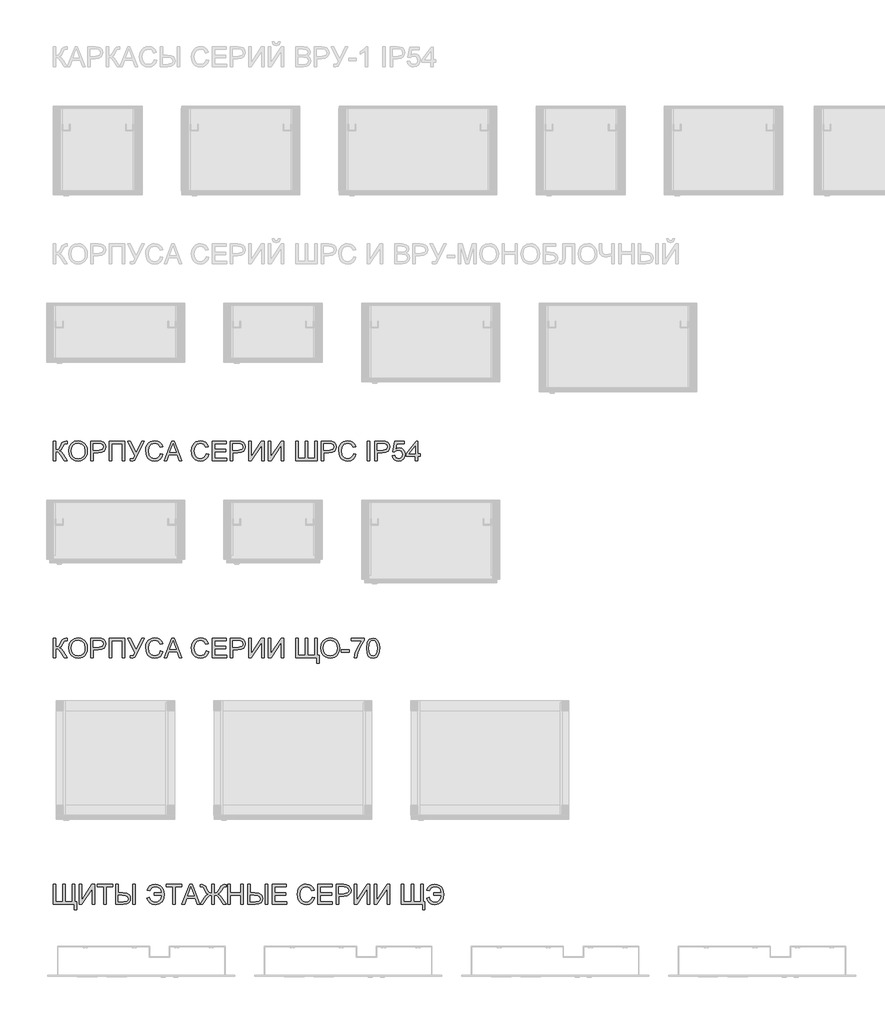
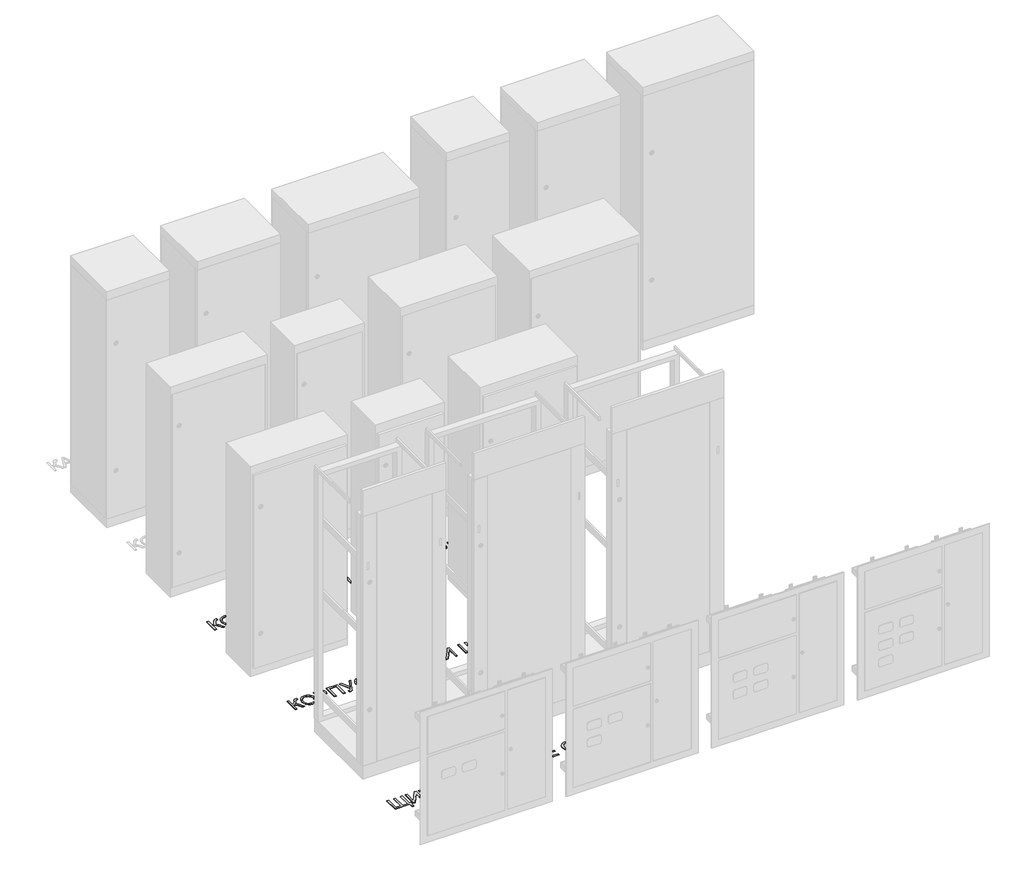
# One storey, part 3 of 25: 3 proxies.
"""IFC4 building model written with IfcOpenShell, lengths in millimetres."""

import ifcopenshell
import ifcopenshell.guid

model = None  # the IFC model being written
_history = None  # IfcOwnerHistory: only IFC2X3 demands one
_inside = {}  # id of a spatial element -> (the spatial element, [elements in it])
_under = {}  # id of a project, library or spatial element -> (it, [spatial elements below it])
_declared = {}  # id of a project -> (the project, [libraries it declares])
_typed = {}  # id of a type object -> (the type object, [elements of that type])
_made_of = {}  # id of a material, layer set ... -> (it, [elements and type objects made of it])


def new_model(schema):
    """Start an empty IFC model of exactly this schema.

    Asked for "IFC4X3", IfcOpenShell would pick the latest addendum, in which some entities
    have other attributes; the version numbers below select the first issue.
    IFC2X3 requires an IfcOwnerHistory on every rooted entity: one is made here for all.
    """
    global model, _history
    if schema == "IFC4X3":
        model = ifcopenshell.file(schema_version=(4, 3, 0, 0))
    else:
        model = ifcopenshell.file(schema=schema)
    _inside.clear()
    _under.clear()
    _declared.clear()
    _typed.clear()
    _made_of.clear()
    _history = None
    if model.schema == "IFC2X3":
        org = make("IfcOrganization", Name="unknown")
        user = make(
            "IfcPersonAndOrganization",
            ThePerson=make("IfcPerson", FamilyName="unknown"),
            TheOrganization=org,
        )
        app = make(
            "IfcApplication",
            ApplicationDeveloper=org,
            Version="unknown",
            ApplicationFullName="unknown",
            ApplicationIdentifier="unknown",
        )
        _history = make(
            "IfcOwnerHistory",
            OwningUser=user,
            OwningApplication=app,
            ChangeAction="ADDED",
            CreationDate=0,
        )
    return model


def make(cls, **values):
    """One entity of the class cls with the attributes given. An attribute that is None is left unset."""
    return model.create_entity(
        cls, **{name: value for name, value in values.items() if value is not None}
    )


def rooted(cls, **values):
    """An entity with a GlobalId (a new one), such as an element, a storey or a relation."""
    return make(cls, GlobalId=ifcopenshell.guid.new(), OwnerHistory=_history, **values)


def si_unit(unit_type, name, prefix=None):
    """IfcSIUnit, for example si_unit("LENGTHUNIT", "METRE", prefix="MILLI")."""
    return make("IfcSIUnit", UnitType=unit_type, Prefix=prefix, Name=name)


def assignment(units):
    """IfcUnitAssignment: the units of a project."""
    return None if units is None else make("IfcUnitAssignment", Units=units)


def point(xyz):
    """IfcCartesianPoint."""
    return None if xyz is None else make("IfcCartesianPoint", Coordinates=xyz)


def direction(xyz):
    """IfcDirection."""
    return None if xyz is None else make("IfcDirection", DirectionRatios=xyz)


def frame(location, z_axis=None, x_axis=None):
    """IfcAxis2Placement3D, a coordinate frame: its origin and axes. An axis left out is left unset."""
    return make(
        "IfcAxis2Placement3D",
        Location=point(location),
        Axis=direction(z_axis),
        RefDirection=direction(x_axis),
    )


def origin():
    """The frame at (0, 0, 0) with its axes left unset."""
    return frame((0.0, 0.0, 0.0))


def place(relative_to, where):
    """IfcLocalPlacement: puts the frame where relative to a parent placement (None: the world)."""
    return make(
        "IfcLocalPlacement", PlacementRelTo=relative_to, RelativePlacement=where
    )


def context(
    kind, dimensions, precision=None, world=None, true_north=None, identifier=None
):
    """IfcGeometricRepresentationContext, for example the 3D "Model" context."""
    return make(
        "IfcGeometricRepresentationContext",
        ContextIdentifier=identifier,
        ContextType=kind,
        CoordinateSpaceDimension=dimensions,
        Precision=precision,
        WorldCoordinateSystem=world,
        TrueNorth=true_north,
    )


def project(units=None, contexts=None):
    """IfcProject with its units and contexts."""
    return rooted(
        "IfcProject",
        Name="project",
        RepresentationContexts=contexts,
        UnitsInContext=assignment(units),
    )


def spatial(cls, under=None, at=None, **own):
    """A site, building, storey or space (cls), placed at a placement, below another one or the project."""
    s = rooted(cls, ObjectPlacement=at, **own)
    if under is not None:
        _under.setdefault(under.id(), (under, []))[1].append(s)
    return s


def polyline(points):
    """IfcPolyline through the points."""
    return make("IfcPolyline", Points=[point(p) for p in points])


def outline(outer, holes=None, kind="AREA"):
    """IfcArbitraryClosedProfileDef: a profile drawn as a closed curve; with holes, ...WithVoids."""
    if holes is None:
        return make("IfcArbitraryClosedProfileDef", ProfileType=kind, OuterCurve=outer)
    return make(
        "IfcArbitraryProfileDefWithVoids",
        ProfileType=kind,
        OuterCurve=outer,
        InnerCurves=holes,
    )


def extrude(swept, where, along, depth):
    """IfcExtrudedAreaSolid: the profile swept, set in the frame where, extruded along a direction by depth."""
    return make(
        "IfcExtrudedAreaSolid",
        SweptArea=swept,
        Position=where,
        ExtrudedDirection=direction(along),
        Depth=depth,
    )


def shape(context_of_items, identifier, shape_type, items):
    """IfcShapeRepresentation: the items that make up one representation, for example the "Body"."""
    return make(
        "IfcShapeRepresentation",
        ContextOfItems=context_of_items,
        RepresentationIdentifier=identifier,
        RepresentationType=shape_type,
        Items=items,
    )


def made_of(thing, what):
    """Note that an element or type object is made of a material, layer set ...; save() writes the relation."""
    if what is not None:
        _made_of.setdefault(what.id(), (what, []))[1].append(thing)
    return thing


def element(
    cls,
    number,
    at=None,
    inside=None,
    cuts=None,
    type_object=None,
    material=None,
    context=None,
    identifier="Body",
    shape_type=None,
    held_by="IfcProductDefinitionShape",
    body=None,
    shapes=None,
    **own,
):
    """One element of the class cls, such as IfcWall. Its Tag is "e" and its number.

    at: its placement. inside: the storey or other place that contains it. cuts: it is an
    opening in that element (IfcRelVoidsElement). A single representation is given by context,
    identifier, shape_type and body (its items); several are given by shapes. held_by: the class
    of the entity that holds the representations. save() writes the other relations.
    """
    e = rooted(cls, Tag="e%d" % number, ObjectPlacement=at, **own)
    if body is not None:
        shapes = [shape(context, identifier, shape_type, body)]
    if shapes is not None:
        e.Representation = make(held_by, Representations=shapes)
    if inside is not None:
        _inside.setdefault(inside.id(), (inside, []))[1].append(e)
    if cuts is not None:
        rooted(
            "IfcRelVoidsElement", RelatingBuildingElement=cuts, RelatedOpeningElement=e
        )
    if type_object is not None:
        _typed.setdefault(type_object.id(), (type_object, []))[1].append(e)
    return made_of(e, material)


def aggregate(whole, parts):
    """IfcRelAggregates: a whole, such as a stair, and the parts it consists of."""
    return rooted("IfcRelAggregates", RelatingObject=whole, RelatedObjects=parts)


def save(model, path):
    """Write the relations noted so far, then the file.

    IfcRelAggregates (storeys below a building ...), IfcRelContainedInSpatialStructure (elements
    in a storey), IfcRelDefinesByType, IfcRelAssociatesMaterial and IfcRelDeclares: one each for
    every whole, place, type object, material and project.
    """
    for whole, parts in _under.values():
        aggregate(whole, parts)
    for where, things in _inside.values():
        rooted(
            "IfcRelContainedInSpatialStructure",
            RelatedElements=things,
            RelatingStructure=where,
        )
    for kind, things in _typed.values():
        rooted("IfcRelDefinesByType", RelatedObjects=things, RelatingType=kind)
    for what, things in _made_of.values():
        rooted("IfcRelAssociatesMaterial", RelatedObjects=things, RelatingMaterial=what)
    for by, libraries in _declared.values():
        rooted("IfcRelDeclares", RelatingContext=by, RelatedDefinitions=libraries)
    model.write(path)


model = new_model("IFC4")

# Units and contexts
model_context = context("Model", 3, world=origin())
ifc_project = project(units=[si_unit("LENGTHUNIT", "METRE", prefix="MILLI")], contexts=[model_context])

# Site, building, storey
site = spatial("IfcSite", under=ifc_project)
building = spatial("IfcBuilding", under=site)
storey = spatial("IfcBuildingStorey", under=building, Name="Этаж 01", Elevation=0.0)

# Proxies
placement = place(None, origin())
element("IfcBuildingElementProxy", 1, Name="Надпись на модели 1", ObjectType="Надпись на модели 1", at=placement, inside=storey, context=model_context, shape_type="SweptSolid", body=[
    extrude(outline(polyline([(-19038.1210387, -3113.3084059), (-19025.564, -3113.3084059), (-19025.564, -3157.2580415), (-19011.5231705, -3153.9348409), (-19001.7252467, -3137.1226337), (-18994.7968024, -3123.0818042), (-18986.9486532, -3116.1288345), (-18975.7282523, -3113.3084059), (-18967.4876957, -3113.4555587), (-18967.4876957, -3126.0125974), (-18970.2590734, -3125.939021), (-18973.030451, -3125.8654446), (-18982.8406376, -3128.882077), (-18990.2963794, -3141.8069978), (-18999.1868609, -3157.5523471), (-19007.8566133, -3162.751746), (-18998.1629227, -3168.4293915), (-18988.6041222, -3180.262929), (-18967.4876957, -3213.764716), (-18982.0558227, -3213.764716), (-18999.9103622, -3185.4623278), (-19012.4796637, -3170.6857344), (-19025.564, -3166.6758206), (-19025.564, -3213.764716), (-19038.1210387, -3213.764716), (-19038.1210387, -3113.3084059)])), frame((0.0, 0.0, 40.0), z_axis=(0.0, 0.0, 1.0), x_axis=(1.0, 0.0, 0.0)), (0.0, 0.0, 1.0), 2.0),
    extrude(outline(polyline([(-18961.2091763, -3164.8609361), (-18957.8614501, -3142.646995), (-18947.8182716, -3125.8409192), (-18932.4837238, -3115.2643118), (-18913.2618896, -3111.738776), (-18900.0855828, -3113.394245), (-18888.2704394, -3118.3606519), (-18878.4602528, -3126.2885089), (-18871.2988166, -3136.8283281), (-18866.9210209, -3149.471206), (-18865.4617557, -3163.7082392), (-18866.997663, -3178.1353448), (-18871.605385, -3190.9560323), (-18879.0304699, -3201.5142456), (-18889.0184661, -3209.1539283), (-18900.7324419, -3213.7892415), (-18913.335466, -3215.3343459), (-18926.7141079, -3213.6267603), (-18938.5966963, -3208.5040035), (-18948.3823574, -3200.4289937), (-18955.4702171, -3189.8646491), (-18961.2091763, -3164.8609361)]), holes=[polyline([(-18948.6521375, -3164.9835634), (-18946.1413429, -3180.698256), (-18938.608959, -3192.672815), (-18927.2873906, -3200.2511841), (-18913.4090424, -3202.7773071), (-18899.328359, -3200.2266586), (-18887.9883965, -3192.5747131), (-18880.5111949, -3180.2322721), (-18878.0187944, -3163.6101373), (-18882.2862256, -3142.8861183), (-18894.7574252, -3129.1641198), (-18913.1883132, -3124.2958148), (-18926.6957138, -3126.6410625), (-18938.1797634, -3133.6768057), (-18946.034044, -3146.1939905), (-18948.6521375, -3164.9835634)])]), frame((0.0, 0.0, 40.0), z_axis=(0.0, 0.0, 1.0), x_axis=(1.0, 0.0, 0.0)), (0.0, 0.0, 1.0), 2.0),
    extrude(outline(polyline([(-18848.1958274, -3213.764716), (-18848.1958274, -3113.3084059), (-18810.9661694, -3113.3084059), (-18795.956584, -3114.264899), (-18783.7551645, -3118.9615258), (-18775.8457016, -3128.6736105), (-18772.8535947, -3142.3710835), (-18774.87388, -3154.2107524), (-18780.9347359, -3164.0761212), (-18792.268567, -3170.7347853), (-18810.1077781, -3172.95434), (-18835.6387886, -3172.95434), (-18835.6387886, -3213.764716), (-18848.1958274, -3213.764716)]), holes=[polyline([(-18835.6387886, -3160.3973012), (-18809.3720141, -3160.3973012), (-18790.8798125, -3155.7865136), (-18786.7779283, -3150.2376268), (-18785.4106335, -3142.8125419), (-18788.6357323, -3132.4137441), (-18797.109281, -3126.7238359), (-18809.6663197, -3125.8654446), (-18835.6387886, -3125.8654446), (-18835.6387886, -3160.3973012)])]), frame((0.0, 0.0, 40.0), z_axis=(0.0, 0.0, 1.0), x_axis=(1.0, 0.0, 0.0)), (0.0, 0.0, 1.0), 2.0),
    extrude(outline(polyline([(-18755.5876664, -3113.3084059), (-18677.1061741, -3113.3084059), (-18677.1061741, -3213.764716), (-18689.6632129, -3213.764716), (-18689.6632129, -3125.8654446), (-18743.0306277, -3125.8654446), (-18743.0306277, -3213.764716), (-18755.5876664, -3213.764716), (-18755.5876664, -3113.3084059)])), frame((0.0, 0.0, 40.0), z_axis=(0.0, 0.0, 1.0), x_axis=(1.0, 0.0, 0.0)), (0.0, 0.0, 1.0), 2.0),
    extrude(outline(polyline([(-18662.1946906, -3113.3084059), (-18648.2887512, -3113.3084059), (-18618.2450549, -3172.8071872), (-18591.217991, -3113.3084059), (-18577.4346789, -3113.3084059), (-18615.5717791, -3191.569169), (-18625.9460513, -3210.7971346), (-18637.5465969, -3215.3343459), (-18648.8528369, -3213.764716), (-18648.8528369, -3202.7773071), (-18638.969074, -3202.7773071), (-18631.6359595, -3199.9814039), (-18624.8424053, -3187.2526869), (-18662.1946906, -3113.3084059)])), frame((0.0, 0.0, 40.0), z_axis=(0.0, 0.0, 1.0), x_axis=(1.0, 0.0, 0.0)), (0.0, 0.0, 1.0), 2.0),
    extrude(outline(polyline([(-18495.029112, -3178.055637), (-18482.4720732, -3181.2929986), (-18488.2662146, -3195.9255049), (-18497.3590313, -3206.6155426), (-18509.3029334, -3213.154645), (-18523.6503312, -3215.3343459), (-18538.2153925, -3213.6850082), (-18549.7822156, -3208.7369954), (-18558.6481717, -3200.6619856), (-18565.1106321, -3189.6316571), (-18570.3713446, -3162.7762715), (-18568.8844882, -3148.1284367), (-18564.423919, -3135.4794274), (-18557.2226289, -3125.2308482), (-18547.51361, -3117.7843035), (-18535.9989035, -3113.2501579), (-18523.3805511, -3111.738776), (-18509.6125674, -3113.694682), (-18498.2296853, -3119.5623998), (-18489.5875241, -3128.9801789), (-18484.0417031, -3141.5862686), (-18496.5987418, -3144.5783754), (-18506.8994377, -3129.1395944), (-18523.8710604, -3124.2958148), (-18543.5159589, -3129.6668919), (-18554.6137325, -3144.0878661), (-18557.8143058, -3162.751746), (-18554.0251213, -3184.3832073), (-18542.228372, -3198.2033076), (-18524.90113, -3202.7773071), (-18514.4195588, -3201.21994), (-18505.6854271, -3196.5478386), (-18499.0911423, -3188.810054), (-18495.029112, -3178.055637)])), frame((0.0, 0.0, 40.0), z_axis=(0.0, 0.0, 1.0), x_axis=(1.0, 0.0, 0.0)), (0.0, 0.0, 1.0), 2.0),
    extrude(outline(polyline([(-18476.9047924, -3213.764716), (-18436.8056549, -3113.3084059), (-18426.1125516, -3113.3084059), (-18386.0134141, -3213.764716), (-18399.2816914, -3213.764716), (-18410.7841351, -3182.3721191), (-18452.1585968, -3182.3721191), (-18463.6365151, -3213.764716), (-18476.9047924, -3213.764716)]), holes=[polyline([(-18447.5478091, -3169.8150803), (-18415.3703973, -3169.8150803), (-18424.4202944, -3145.1179357), (-18431.4591032, -3125.8654446), (-18437.7130971, -3142.9596947), (-18447.5478091, -3169.8150803)])]), frame((0.0, 0.0, 40.0), z_axis=(0.0, 0.0, 1.0), x_axis=(1.0, 0.0, 0.0)), (0.0, 0.0, 1.0), 2.0),
    extrude(outline(polyline([(-18262.7238948, -3178.055637), (-18250.166856, -3181.2929986), (-18255.9609974, -3195.9255049), (-18265.0538141, -3206.6155426), (-18276.9977162, -3213.154645), (-18291.345114, -3215.3343459), (-18305.9101753, -3213.6850082), (-18317.4769984, -3208.7369954), (-18326.3429545, -3200.6619856), (-18332.8054148, -3189.6316571), (-18338.0661274, -3162.7762715), (-18336.579271, -3148.1284367), (-18332.1187018, -3135.4794274), (-18324.9174117, -3125.2308482), (-18315.2083927, -3117.7843035), (-18303.6936863, -3113.2501579), (-18291.0753339, -3111.738776), (-18277.3073502, -3113.694682), (-18265.9244681, -3119.5623998), (-18257.2823069, -3128.9801789), (-18251.7364858, -3141.5862686), (-18264.2935246, -3144.5783754), (-18274.5942205, -3129.1395944), (-18291.5658432, -3124.2958148), (-18311.2107417, -3129.6668919), (-18322.3085152, -3144.0878661), (-18325.5090886, -3162.751746), (-18321.7199041, -3184.3832073), (-18309.9231547, -3198.2033076), (-18292.5959128, -3202.7773071), (-18282.1143416, -3201.21994), (-18273.3802099, -3196.5478386), (-18266.7859251, -3188.810054), (-18262.7238948, -3178.055637)])), frame((0.0, 0.0, 40.0), z_axis=(0.0, 0.0, 1.0), x_axis=(1.0, 0.0, 0.0)), (0.0, 0.0, 1.0), 2.0),
    extrude(outline(polyline([(-18232.9009277, -3213.764716), (-18232.9009277, -3113.3084059), (-18160.6979548, -3113.3084059), (-18160.6979548, -3125.8654446), (-18220.3438889, -3125.8654446), (-18220.3438889, -3155.6884117), (-18163.8372145, -3155.6884117), (-18163.8372145, -3168.2454505), (-18220.3438889, -3168.2454505), (-18220.3438889, -3201.2076772), (-18159.1283249, -3201.2076772), (-18159.1283249, -3213.764716), (-18232.9009277, -3213.764716)])), frame((0.0, 0.0, 40.0), z_axis=(0.0, 0.0, 1.0), x_axis=(1.0, 0.0, 0.0)), (0.0, 0.0, 1.0), 2.0),
    extrude(outline(polyline([(-18140.2927668, -3213.764716), (-18140.2927668, -3113.3084059), (-18103.0631089, -3113.3084059), (-18088.0535235, -3114.264899), (-18075.8521039, -3118.9615258), (-18067.942641, -3128.6736105), (-18064.9505342, -3142.3710835), (-18066.9708194, -3154.2107524), (-18073.0316753, -3164.0761212), (-18084.3655064, -3170.7347853), (-18102.2047175, -3172.95434), (-18127.735728, -3172.95434), (-18127.735728, -3213.764716), (-18140.2927668, -3213.764716)]), holes=[polyline([(-18127.735728, -3160.3973012), (-18101.4689535, -3160.3973012), (-18082.9767519, -3155.7865136), (-18078.8748677, -3150.2376268), (-18077.5075729, -3142.8125419), (-18080.7326717, -3132.4137441), (-18089.2062204, -3126.7238359), (-18101.7632591, -3125.8654446), (-18127.735728, -3125.8654446), (-18127.735728, -3160.3973012)])]), frame((0.0, 0.0, 40.0), z_axis=(0.0, 0.0, 1.0), x_axis=(1.0, 0.0, 0.0)), (0.0, 0.0, 1.0), 2.0),
    extrude(outline(polyline([(-18047.6846058, -3113.3084059), (-18035.1275671, -3113.3084059), (-18035.1275671, -3192.8690187), (-17982.5449672, -3113.3084059), (-17969.2031135, -3113.3084059), (-17969.2031135, -3213.764716), (-17981.7601523, -3213.764716), (-17981.7601523, -3134.4248324), (-18034.2201248, -3213.764716), (-18047.6846058, -3213.764716), (-18047.6846058, -3113.3084059)])), frame((0.0, 0.0, 40.0), z_axis=(0.0, 0.0, 1.0), x_axis=(1.0, 0.0, 0.0)), (0.0, 0.0, 1.0), 2.0),
    extrude(outline(polyline([(-17947.2282957, -3113.3084059), (-17934.6712569, -3113.3084059), (-17934.6712569, -3192.8690187), (-17882.0886571, -3113.3084059), (-17868.7468034, -3113.3084059), (-17868.7468034, -3213.764716), (-17881.3038422, -3213.764716), (-17881.3038422, -3134.4248324), (-17933.7638147, -3213.764716), (-17947.2282957, -3213.764716), (-17947.2282957, -3113.3084059)])), frame((0.0, 0.0, 40.0), z_axis=(0.0, 0.0, 1.0), x_axis=(1.0, 0.0, 0.0)), (0.0, 0.0, 1.0), 2.0),
    extrude(outline(polyline([(-17809.1008692, -3113.3084059), (-17796.5438305, -3113.3084059), (-17796.5438305, -3201.2076772), (-17760.442344, -3201.2076772), (-17760.442344, -3113.3084059), (-17747.8853052, -3113.3084059), (-17747.8853052, -3201.2076772), (-17711.7838188, -3201.2076772), (-17711.7838188, -3113.3084059), (-17699.22678, -3113.3084059), (-17699.22678, -3213.764716), (-17809.1008692, -3213.764716), (-17809.1008692, -3113.3084059)])), frame((0.0, 0.0, 40.0), z_axis=(0.0, 0.0, 1.0), x_axis=(1.0, 0.0, 0.0)), (0.0, 0.0, 1.0), 2.0),
    extrude(outline(polyline([(-17678.821592, -3213.764716), (-17678.821592, -3113.3084059), (-17641.5919341, -3113.3084059), (-17626.5823487, -3114.264899), (-17614.3809292, -3118.9615258), (-17606.4714663, -3128.6736105), (-17603.4793594, -3142.3710835), (-17605.4996447, -3154.2107524), (-17611.5605006, -3164.0761212), (-17622.8943317, -3170.7347853), (-17640.7335428, -3172.95434), (-17666.2645532, -3172.95434), (-17666.2645532, -3213.764716), (-17678.821592, -3213.764716)]), holes=[polyline([(-17666.2645532, -3160.3973012), (-17639.9977788, -3160.3973012), (-17621.5055772, -3155.7865136), (-17617.4036929, -3150.2376268), (-17616.0363982, -3142.8125419), (-17619.261497, -3132.4137441), (-17627.7350456, -3126.7238359), (-17640.2920844, -3125.8654446), (-17666.2645532, -3125.8654446), (-17666.2645532, -3160.3973012)])]), frame((0.0, 0.0, 40.0), z_axis=(0.0, 0.0, 1.0), x_axis=(1.0, 0.0, 0.0)), (0.0, 0.0, 1.0), 2.0),
    extrude(outline(polyline([(-17515.580088, -3178.055637), (-17503.0230493, -3181.2929986), (-17508.8171907, -3195.9255049), (-17517.9100073, -3206.6155426), (-17529.8539094, -3213.154645), (-17544.2013072, -3215.3343459), (-17558.7663686, -3213.6850082), (-17570.3331916, -3208.7369954), (-17579.1991477, -3200.6619856), (-17585.6616081, -3189.6316571), (-17590.9223206, -3162.7762715), (-17589.4354642, -3148.1284367), (-17584.974895, -3135.4794274), (-17577.773605, -3125.2308482), (-17568.064586, -3117.7843035), (-17556.5498796, -3113.2501579), (-17543.9315271, -3111.738776), (-17530.1635434, -3113.694682), (-17518.7806614, -3119.5623998), (-17510.1385002, -3128.9801789), (-17504.5926791, -3141.5862686), (-17517.1497179, -3144.5783754), (-17527.4504137, -3129.1395944), (-17544.4220364, -3124.2958148), (-17564.066935, -3129.6668919), (-17575.1647085, -3144.0878661), (-17578.3652819, -3162.751746), (-17574.5760973, -3184.3832073), (-17562.779348, -3198.2033076), (-17545.452106, -3202.7773071), (-17534.9705349, -3201.21994), (-17526.2364031, -3196.5478386), (-17519.6421184, -3188.810054), (-17515.580088, -3178.055637)])), frame((0.0, 0.0, 40.0), z_axis=(0.0, 0.0, 1.0), x_axis=(1.0, 0.0, 0.0)), (0.0, 0.0, 1.0), 2.0),
    extrude(outline(polyline([(-17444.9467449, -3213.764716), (-17444.9467449, -3113.3084059), (-17432.3897062, -3113.3084059), (-17432.3897062, -3213.764716), (-17444.9467449, -3213.764716)])), frame((0.0, 0.0, 40.0), z_axis=(0.0, 0.0, 1.0), x_axis=(1.0, 0.0, 0.0)), (0.0, 0.0, 1.0), 2.0),
    extrude(outline(polyline([(-17407.2756286, -3213.764716), (-17407.2756286, -3113.3084059), (-17370.0459707, -3113.3084059), (-17355.0363853, -3114.264899), (-17342.8349658, -3118.9615258), (-17334.9255029, -3128.6736105), (-17331.933396, -3142.3710835), (-17333.9536813, -3154.2107524), (-17340.0145372, -3164.0761212), (-17351.3483683, -3170.7347853), (-17369.1875794, -3172.95434), (-17394.7185899, -3172.95434), (-17394.7185899, -3213.764716), (-17407.2756286, -3213.764716)]), holes=[polyline([(-17394.7185899, -3160.3973012), (-17368.4518154, -3160.3973012), (-17349.9596138, -3155.7865136), (-17345.8577295, -3150.2376268), (-17344.4904348, -3142.8125419), (-17347.7155336, -3132.4137441), (-17356.1890822, -3126.7238359), (-17368.746121, -3125.8654446), (-17394.7185899, -3125.8654446), (-17394.7185899, -3160.3973012)])]), frame((0.0, 0.0, 40.0), z_axis=(0.0, 0.0, 1.0), x_axis=(1.0, 0.0, 0.0)), (0.0, 0.0, 1.0), 2.0),
    extrude(outline(polyline([(-17319.3763573, -3187.0810086), (-17306.8193185, -3185.5113788), (-17300.4917482, -3198.4485623), (-17287.3706237, -3202.7773071), (-17278.3697775, -3201.2720566), (-17271.6252743, -3196.7563051), (-17267.4130254, -3189.7512188), (-17266.0089425, -3180.7779638), (-17271.269655, -3165.8664802), (-17277.8762025, -3161.764596), (-17287.17442, -3160.3973012), (-17298.1986171, -3162.5800677), (-17305.2496886, -3168.2454505), (-17317.8067274, -3166.6758206), (-17306.8193185, -3114.8780357), (-17258.1607933, -3114.8780357), (-17258.1607933, -3127.4350745), (-17296.6657754, -3127.4350745), (-17302.0368526, -3155.0998005), (-17293.0666632, -3149.655147), (-17283.6672783, -3147.8402625), (-17271.9349083, -3150.090474), (-17262.1952325, -3156.8411086), (-17255.6377359, -3167.1295418), (-17253.4519037, -3179.9931488), (-17255.4200724, -3192.5501876), (-17261.3245784, -3203.2923419), (-17272.6308184, -3212.3238449), (-17287.4196746, -3215.3343459), (-17299.7529185, -3213.3998997), (-17309.5784335, -3207.5965612), (-17316.3137397, -3198.5987808), (-17319.3763573, -3187.0810086)])), frame((0.0, 0.0, 40.0), z_axis=(0.0, 0.0, 1.0), x_axis=(1.0, 0.0, 0.0)), (0.0, 0.0, 1.0), 2.0),
    extrude(outline(polyline([(-17201.6541188, -3213.764716), (-17201.6541188, -3190.2202683), (-17247.1733843, -3190.2202683), (-17247.1733843, -3177.6632295), (-17198.5148591, -3114.8780357), (-17189.09708, -3114.8780357), (-17189.09708, -3177.6632295), (-17176.5400413, -3177.6632295), (-17176.5400413, -3190.2202683), (-17189.09708, -3190.2202683), (-17189.09708, -3213.764716), (-17201.6541188, -3213.764716)]), holes=[polyline([(-17201.6541188, -3177.6632295), (-17201.6541188, -3138.8639418), (-17231.7223405, -3177.6632295), (-17201.6541188, -3177.6632295)])]), frame((0.0, 0.0, 40.0), z_axis=(0.0, 0.0, 1.0), x_axis=(1.0, 0.0, 0.0)), (0.0, 0.0, 1.0), 2.0),
])
element("IfcBuildingElementProxy", 2, Name="Надпись на модели 1", ObjectType="Надпись на модели 1", at=placement, inside=storey, context=model_context, shape_type="SweptSolid", body=[
    extrude(outline(polyline([(-19038.1210387, -4113.3084059), (-19025.564, -4113.3084059), (-19025.564, -4157.2580415), (-19011.5231705, -4153.9348409), (-19001.7252467, -4137.1226337), (-18994.7968024, -4123.0818042), (-18986.9486532, -4116.1288345), (-18975.7282523, -4113.3084059), (-18967.4876957, -4113.4555587), (-18967.4876957, -4126.0125974), (-18970.2590734, -4125.939021), (-18973.030451, -4125.8654446), (-18982.8406376, -4128.882077), (-18990.2963794, -4141.8069978), (-18999.1868609, -4157.5523471), (-19007.8566133, -4162.751746), (-18998.1629227, -4168.4293915), (-18988.6041222, -4180.262929), (-18967.4876957, -4213.764716), (-18982.0558227, -4213.764716), (-18999.9103622, -4185.4623278), (-19012.4796637, -4170.6857344), (-19025.564, -4166.6758206), (-19025.564, -4213.764716), (-19038.1210387, -4213.764716), (-19038.1210387, -4113.3084059)])), frame((0.0, 0.0, 40.0), z_axis=(0.0, 0.0, 1.0), x_axis=(1.0, 0.0, 0.0)), (0.0, 0.0, 1.0), 2.0),
    extrude(outline(polyline([(-18961.2091763, -4164.8609361), (-18957.8614501, -4142.646995), (-18947.8182716, -4125.8409192), (-18932.4837238, -4115.2643118), (-18913.2618896, -4111.738776), (-18900.0855828, -4113.394245), (-18888.2704394, -4118.3606519), (-18878.4602528, -4126.2885089), (-18871.2988166, -4136.8283281), (-18866.9210209, -4149.471206), (-18865.4617557, -4163.7082392), (-18866.997663, -4178.1353448), (-18871.605385, -4190.9560323), (-18879.0304699, -4201.5142456), (-18889.0184661, -4209.1539283), (-18900.7324419, -4213.7892415), (-18913.335466, -4215.3343459), (-18926.7141079, -4213.6267603), (-18938.5966963, -4208.5040035), (-18948.3823574, -4200.4289937), (-18955.4702171, -4189.8646491), (-18961.2091763, -4164.8609361)]), holes=[polyline([(-18948.6521375, -4164.9835634), (-18946.1413429, -4180.698256), (-18938.608959, -4192.672815), (-18927.2873906, -4200.2511841), (-18913.4090424, -4202.7773071), (-18899.328359, -4200.2266586), (-18887.9883965, -4192.5747131), (-18880.5111949, -4180.2322721), (-18878.0187944, -4163.6101373), (-18882.2862256, -4142.8861183), (-18894.7574252, -4129.1641198), (-18913.1883132, -4124.2958148), (-18926.6957138, -4126.6410625), (-18938.1797634, -4133.6768057), (-18946.034044, -4146.1939905), (-18948.6521375, -4164.9835634)])]), frame((0.0, 0.0, 40.0), z_axis=(0.0, 0.0, 1.0), x_axis=(1.0, 0.0, 0.0)), (0.0, 0.0, 1.0), 2.0),
    extrude(outline(polyline([(-18848.1958274, -4213.764716), (-18848.1958274, -4113.3084059), (-18810.9661694, -4113.3084059), (-18795.956584, -4114.264899), (-18783.7551645, -4118.9615258), (-18775.8457016, -4128.6736105), (-18772.8535947, -4142.3710835), (-18774.87388, -4154.2107524), (-18780.9347359, -4164.0761212), (-18792.268567, -4170.7347853), (-18810.1077781, -4172.95434), (-18835.6387886, -4172.95434), (-18835.6387886, -4213.764716), (-18848.1958274, -4213.764716)]), holes=[polyline([(-18835.6387886, -4160.3973012), (-18809.3720141, -4160.3973012), (-18790.8798125, -4155.7865136), (-18786.7779283, -4150.2376268), (-18785.4106335, -4142.8125419), (-18788.6357323, -4132.4137441), (-18797.109281, -4126.7238359), (-18809.6663197, -4125.8654446), (-18835.6387886, -4125.8654446), (-18835.6387886, -4160.3973012)])]), frame((0.0, 0.0, 40.0), z_axis=(0.0, 0.0, 1.0), x_axis=(1.0, 0.0, 0.0)), (0.0, 0.0, 1.0), 2.0),
    extrude(outline(polyline([(-18755.5876664, -4113.3084059), (-18677.1061741, -4113.3084059), (-18677.1061741, -4213.764716), (-18689.6632129, -4213.764716), (-18689.6632129, -4125.8654446), (-18743.0306277, -4125.8654446), (-18743.0306277, -4213.764716), (-18755.5876664, -4213.764716), (-18755.5876664, -4113.3084059)])), frame((0.0, 0.0, 40.0), z_axis=(0.0, 0.0, 1.0), x_axis=(1.0, 0.0, 0.0)), (0.0, 0.0, 1.0), 2.0),
    extrude(outline(polyline([(-18662.1946906, -4113.3084059), (-18648.2887512, -4113.3084059), (-18618.2450549, -4172.8071872), (-18591.217991, -4113.3084059), (-18577.4346789, -4113.3084059), (-18615.5717791, -4191.569169), (-18625.9460513, -4210.7971346), (-18637.5465969, -4215.3343459), (-18648.8528369, -4213.764716), (-18648.8528369, -4202.7773071), (-18638.969074, -4202.7773071), (-18631.6359595, -4199.9814039), (-18624.8424053, -4187.2526869), (-18662.1946906, -4113.3084059)])), frame((0.0, 0.0, 40.0), z_axis=(0.0, 0.0, 1.0), x_axis=(1.0, 0.0, 0.0)), (0.0, 0.0, 1.0), 2.0),
    extrude(outline(polyline([(-18495.029112, -4178.055637), (-18482.4720732, -4181.2929986), (-18488.2662146, -4195.9255049), (-18497.3590313, -4206.6155426), (-18509.3029334, -4213.154645), (-18523.6503312, -4215.3343459), (-18538.2153925, -4213.6850082), (-18549.7822156, -4208.7369954), (-18558.6481717, -4200.6619856), (-18565.1106321, -4189.6316571), (-18570.3713446, -4162.7762715), (-18568.8844882, -4148.1284367), (-18564.423919, -4135.4794274), (-18557.2226289, -4125.2308482), (-18547.51361, -4117.7843035), (-18535.9989035, -4113.2501579), (-18523.3805511, -4111.738776), (-18509.6125674, -4113.694682), (-18498.2296853, -4119.5623998), (-18489.5875241, -4128.9801789), (-18484.0417031, -4141.5862686), (-18496.5987418, -4144.5783754), (-18506.8994377, -4129.1395944), (-18523.8710604, -4124.2958148), (-18543.5159589, -4129.6668919), (-18554.6137325, -4144.0878661), (-18557.8143058, -4162.751746), (-18554.0251213, -4184.3832073), (-18542.228372, -4198.2033076), (-18524.90113, -4202.7773071), (-18514.4195588, -4201.21994), (-18505.6854271, -4196.5478386), (-18499.0911423, -4188.810054), (-18495.029112, -4178.055637)])), frame((0.0, 0.0, 40.0), z_axis=(0.0, 0.0, 1.0), x_axis=(1.0, 0.0, 0.0)), (0.0, 0.0, 1.0), 2.0),
    extrude(outline(polyline([(-18476.9047924, -4213.764716), (-18436.8056549, -4113.3084059), (-18426.1125516, -4113.3084059), (-18386.0134141, -4213.764716), (-18399.2816914, -4213.764716), (-18410.7841351, -4182.3721191), (-18452.1585968, -4182.3721191), (-18463.6365151, -4213.764716), (-18476.9047924, -4213.764716)]), holes=[polyline([(-18447.5478091, -4169.8150803), (-18415.3703973, -4169.8150803), (-18424.4202944, -4145.1179357), (-18431.4591032, -4125.8654446), (-18437.7130971, -4142.9596947), (-18447.5478091, -4169.8150803)])]), frame((0.0, 0.0, 40.0), z_axis=(0.0, 0.0, 1.0), x_axis=(1.0, 0.0, 0.0)), (0.0, 0.0, 1.0), 2.0),
    extrude(outline(polyline([(-18262.7238948, -4178.055637), (-18250.166856, -4181.2929986), (-18255.9609974, -4195.9255049), (-18265.0538141, -4206.6155426), (-18276.9977162, -4213.154645), (-18291.345114, -4215.3343459), (-18305.9101753, -4213.6850082), (-18317.4769984, -4208.7369954), (-18326.3429545, -4200.6619856), (-18332.8054148, -4189.6316571), (-18338.0661274, -4162.7762715), (-18336.579271, -4148.1284367), (-18332.1187018, -4135.4794274), (-18324.9174117, -4125.2308482), (-18315.2083927, -4117.7843035), (-18303.6936863, -4113.2501579), (-18291.0753339, -4111.738776), (-18277.3073502, -4113.694682), (-18265.9244681, -4119.5623998), (-18257.2823069, -4128.9801789), (-18251.7364858, -4141.5862686), (-18264.2935246, -4144.5783754), (-18274.5942205, -4129.1395944), (-18291.5658432, -4124.2958148), (-18311.2107417, -4129.6668919), (-18322.3085152, -4144.0878661), (-18325.5090886, -4162.751746), (-18321.7199041, -4184.3832073), (-18309.9231547, -4198.2033076), (-18292.5959128, -4202.7773071), (-18282.1143416, -4201.21994), (-18273.3802099, -4196.5478386), (-18266.7859251, -4188.810054), (-18262.7238948, -4178.055637)])), frame((0.0, 0.0, 40.0), z_axis=(0.0, 0.0, 1.0), x_axis=(1.0, 0.0, 0.0)), (0.0, 0.0, 1.0), 2.0),
    extrude(outline(polyline([(-18232.9009277, -4213.764716), (-18232.9009277, -4113.3084059), (-18160.6979548, -4113.3084059), (-18160.6979548, -4125.8654446), (-18220.3438889, -4125.8654446), (-18220.3438889, -4155.6884117), (-18163.8372145, -4155.6884117), (-18163.8372145, -4168.2454505), (-18220.3438889, -4168.2454505), (-18220.3438889, -4201.2076772), (-18159.1283249, -4201.2076772), (-18159.1283249, -4213.764716), (-18232.9009277, -4213.764716)])), frame((0.0, 0.0, 40.0), z_axis=(0.0, 0.0, 1.0), x_axis=(1.0, 0.0, 0.0)), (0.0, 0.0, 1.0), 2.0),
    extrude(outline(polyline([(-18140.2927668, -4213.764716), (-18140.2927668, -4113.3084059), (-18103.0631089, -4113.3084059), (-18088.0535235, -4114.264899), (-18075.8521039, -4118.9615258), (-18067.942641, -4128.6736105), (-18064.9505342, -4142.3710835), (-18066.9708194, -4154.2107524), (-18073.0316753, -4164.0761212), (-18084.3655064, -4170.7347853), (-18102.2047175, -4172.95434), (-18127.735728, -4172.95434), (-18127.735728, -4213.764716), (-18140.2927668, -4213.764716)]), holes=[polyline([(-18127.735728, -4160.3973012), (-18101.4689535, -4160.3973012), (-18082.9767519, -4155.7865136), (-18078.8748677, -4150.2376268), (-18077.5075729, -4142.8125419), (-18080.7326717, -4132.4137441), (-18089.2062204, -4126.7238359), (-18101.7632591, -4125.8654446), (-18127.735728, -4125.8654446), (-18127.735728, -4160.3973012)])]), frame((0.0, 0.0, 40.0), z_axis=(0.0, 0.0, 1.0), x_axis=(1.0, 0.0, 0.0)), (0.0, 0.0, 1.0), 2.0),
    extrude(outline(polyline([(-18047.6846058, -4113.3084059), (-18035.1275671, -4113.3084059), (-18035.1275671, -4192.8690187), (-17982.5449672, -4113.3084059), (-17969.2031135, -4113.3084059), (-17969.2031135, -4213.764716), (-17981.7601523, -4213.764716), (-17981.7601523, -4134.4248324), (-18034.2201248, -4213.764716), (-18047.6846058, -4213.764716), (-18047.6846058, -4113.3084059)])), frame((0.0, 0.0, 40.0), z_axis=(0.0, 0.0, 1.0), x_axis=(1.0, 0.0, 0.0)), (0.0, 0.0, 1.0), 2.0),
    extrude(outline(polyline([(-17947.2282957, -4113.3084059), (-17934.6712569, -4113.3084059), (-17934.6712569, -4192.8690187), (-17882.0886571, -4113.3084059), (-17868.7468034, -4113.3084059), (-17868.7468034, -4213.764716), (-17881.3038422, -4213.764716), (-17881.3038422, -4134.4248324), (-17933.7638147, -4213.764716), (-17947.2282957, -4213.764716), (-17947.2282957, -4113.3084059)])), frame((0.0, 0.0, 40.0), z_axis=(0.0, 0.0, 1.0), x_axis=(1.0, 0.0, 0.0)), (0.0, 0.0, 1.0), 2.0),
    extrude(outline(polyline([(-17809.1008692, -4113.3084059), (-17796.5438305, -4113.3084059), (-17796.5438305, -4201.2076772), (-17760.442344, -4201.2076772), (-17760.442344, -4113.3084059), (-17747.8853052, -4113.3084059), (-17747.8853052, -4201.2076772), (-17711.7838188, -4201.2076772), (-17711.7838188, -4113.3084059), (-17699.22678, -4113.3084059), (-17699.22678, -4201.2076772), (-17689.8090009, -4201.2076772), (-17689.8090009, -4242.0180532), (-17702.3660397, -4242.0180532), (-17702.3660397, -4213.764716), (-17809.1008692, -4213.764716), (-17809.1008692, -4113.3084059)])), frame((0.0, 0.0, 40.0), z_axis=(0.0, 0.0, 1.0), x_axis=(1.0, 0.0, 0.0)), (0.0, 0.0, 1.0), 2.0),
    extrude(outline(polyline([(-17681.9608517, -4164.8609361), (-17678.6131256, -4142.646995), (-17668.5699471, -4125.8409192), (-17653.2353993, -4115.2643118), (-17634.013565, -4111.738776), (-17620.8372582, -4113.394245), (-17609.0221148, -4118.3606519), (-17599.2119283, -4126.2885089), (-17592.0504921, -4136.8283281), (-17587.6726963, -4149.471206), (-17586.2134311, -4163.7082392), (-17587.7493384, -4178.1353448), (-17592.3570604, -4190.9560323), (-17599.7821454, -4201.5142456), (-17609.7701415, -4209.1539283), (-17621.4841174, -4213.7892415), (-17634.0871414, -4215.3343459), (-17647.4657833, -4213.6267603), (-17659.3483717, -4208.5040035), (-17669.1340328, -4200.4289937), (-17676.2218926, -4189.8646491), (-17681.9608517, -4164.8609361)]), holes=[polyline([(-17669.4038129, -4164.9835634), (-17666.8930183, -4180.698256), (-17659.3606345, -4192.672815), (-17648.0390661, -4200.2511841), (-17634.1607178, -4202.7773071), (-17620.0800344, -4200.2266586), (-17608.7400719, -4192.5747131), (-17601.2628704, -4180.2322721), (-17598.7704699, -4163.6101373), (-17603.037901, -4142.8861183), (-17615.5091006, -4129.1641198), (-17633.9399886, -4124.2958148), (-17647.4473892, -4126.6410625), (-17658.9314388, -4133.6768057), (-17666.7857194, -4146.1939905), (-17669.4038129, -4164.9835634)])]), frame((0.0, 0.0, 40.0), z_axis=(0.0, 0.0, 1.0), x_axis=(1.0, 0.0, 0.0)), (0.0, 0.0, 1.0), 2.0),
    extrude(outline(polyline([(-17576.795652, -4183.9417489), (-17576.795652, -4171.3847102), (-17537.5549059, -4171.3847102), (-17537.5549059, -4183.9417489), (-17576.795652, -4183.9417489)])), frame((0.0, 0.0, 40.0), z_axis=(0.0, 0.0, 1.0), x_axis=(1.0, 0.0, 0.0)), (0.0, 0.0, 1.0), 2.0),
    extrude(outline(polyline([(-17526.5674969, -4127.4350745), (-17526.5674969, -4114.8780357), (-17460.6430434, -4114.8780357), (-17460.6430434, -4125.0315788), (-17479.3437115, -4152.0463799), (-17493.6543211, -4186.467872), (-17498.3141597, -4213.764716), (-17510.8711985, -4213.764716), (-17505.8802661, -4185.4378024), (-17492.1827931, -4153.4198061), (-17473.2000822, -4127.4350745), (-17526.5674969, -4127.4350745)])), frame((0.0, 0.0, 40.0), z_axis=(0.0, 0.0, 1.0), x_axis=(1.0, 0.0, 0.0)), (0.0, 0.0, 1.0), 2.0),
    extrude(outline(polyline([(-17449.6556345, -4164.3459013), (-17445.9645518, -4135.4426392), (-17435.0016683, -4118.7775849), (-17416.6934077, -4113.3084059), (-17402.0271788, -4116.5457674), (-17391.8981612, -4125.8777074), (-17386.0120493, -4140.74014), (-17383.731181, -4164.3459013), (-17387.3854754, -4193.1265361), (-17398.3115707, -4209.8283787), (-17406.5429303, -4213.9578541), (-17416.6934077, -4215.3343459), (-17429.7409558, -4212.9431129), (-17439.6492442, -4205.769414), (-17447.1540369, -4188.7793972), (-17449.6556345, -4164.3459013)]), holes=[polyline([(-17437.0985957, -4164.3213759), (-17435.6270677, -4184.0735733), (-17431.2124838, -4195.5055063), (-17424.6396588, -4200.9593569), (-17416.6934077, -4202.7773071), (-17408.7471566, -4200.9532255), (-17402.1743316, -4195.4809808), (-17397.7597477, -4184.0429165), (-17396.2882197, -4164.3213759), (-17397.7106968, -4145.0137025), (-17401.9781279, -4133.4928647), (-17408.5386902, -4127.7722996), (-17416.8405605, -4125.8654446), (-17424.7009725, -4127.5454391), (-17431.0162801, -4132.5854224), (-17435.5780168, -4144.8236301), (-17437.0985957, -4164.3213759)])]), frame((0.0, 0.0, 40.0), z_axis=(0.0, 0.0, 1.0), x_axis=(1.0, 0.0, 0.0)), (0.0, 0.0, 1.0), 2.0),
])
element("IfcBuildingElementProxy", 3, Name="Надпись на модели 1", ObjectType="Надпись на модели 1", at=placement, inside=storey, context=model_context, shape_type="SweptSolid", body=[
    extrude(outline(polyline([(-19039.6906686, -5363.3084059), (-19027.1336298, -5363.3084059), (-19027.1336298, -5451.2076772), (-18991.0321433, -5451.2076772), (-18991.0321433, -5363.3084059), (-18978.4751046, -5363.3084059), (-18978.4751046, -5451.2076772), (-18942.3736181, -5451.2076772), (-18942.3736181, -5363.3084059), (-18929.8165793, -5363.3084059), (-18929.8165793, -5451.2076772), (-18920.3988003, -5451.2076772), (-18920.3988003, -5492.0180532), (-18932.955839, -5492.0180532), (-18932.955839, -5463.764716), (-19039.6906686, -5463.764716), (-19039.6906686, -5363.3084059)])), frame((0.0, 0.0, 40.0), z_axis=(0.0, 0.0, 1.0), x_axis=(1.0, 0.0, 0.0)), (0.0, 0.0, 1.0), 2.0),
    extrude(outline(polyline([(-18907.8417615, -5363.3084059), (-18895.2847227, -5363.3084059), (-18895.2847227, -5442.8690187), (-18842.7021229, -5363.3084059), (-18829.3602692, -5363.3084059), (-18829.3602692, -5463.764716), (-18841.917308, -5463.764716), (-18841.917308, -5384.4248324), (-18894.3772805, -5463.764716), (-18907.8417615, -5463.764716), (-18907.8417615, -5363.3084059)])), frame((0.0, 0.0, 40.0), z_axis=(0.0, 0.0, 1.0), x_axis=(1.0, 0.0, 0.0)), (0.0, 0.0, 1.0), 2.0),
    extrude(outline(polyline([(-18782.2713738, -5463.764716), (-18782.2713738, -5375.8654446), (-18815.2336006, -5375.8654446), (-18815.2336006, -5363.3084059), (-18736.7521083, -5363.3084059), (-18736.7521083, -5375.8654446), (-18769.714335, -5375.8654446), (-18769.714335, -5463.764716), (-18782.2713738, -5463.764716)])), frame((0.0, 0.0, 40.0), z_axis=(0.0, 0.0, 1.0), x_axis=(1.0, 0.0, 0.0)), (0.0, 0.0, 1.0), 2.0),
    extrude(outline(polyline([(-18722.6254397, -5363.3084059), (-18710.0684009, -5363.3084059), (-18710.0684009, -5405.6884117), (-18685.935342, -5405.6884117), (-18666.2965748, -5407.8834409), (-18654.7634743, -5414.4685287), (-18649.1532739, -5423.8372568), (-18647.2832071, -5434.3832073), (-18649.2605728, -5445.3982074), (-18655.1926699, -5454.9478109), (-18666.4958443, -5461.5604897), (-18684.5864414, -5463.764716), (-18722.6254397, -5463.764716), (-18722.6254397, -5363.3084059)]), holes=[polyline([(-18710.0684009, -5451.2076772), (-18684.7090687, -5451.2076772), (-18665.7386205, -5447.222289), (-18661.3148395, -5442.0382185), (-18659.8402458, -5434.4567837), (-18663.4087012, -5424.4749189), (-18672.6302765, -5419.3490965), (-18691.5026229, -5418.2454505), (-18710.0684009, -5418.2454505), (-18710.0684009, -5451.2076772)])]), frame((0.0, 0.0, 40.0), z_axis=(0.0, 0.0, 1.0), x_axis=(1.0, 0.0, 0.0)), (0.0, 0.0, 1.0), 2.0),
    extrude(outline(polyline([(-18634.7261683, -5363.3084059), (-18622.1691295, -5363.3084059), (-18622.1691295, -5463.764716), (-18634.7261683, -5463.764716), (-18634.7261683, -5363.3084059)])), frame((0.0, 0.0, 40.0), z_axis=(0.0, 0.0, 1.0), x_axis=(1.0, 0.0, 0.0)), (0.0, 0.0, 1.0), 2.0),
    extrude(outline(polyline([(-18526.4217089, -5405.6884117), (-18488.7505926, -5405.6884117), (-18491.5158389, -5392.7358998), (-18498.1438462, -5382.7693634), (-18508.3341775, -5376.4142019), (-18521.7863958, -5374.2958148), (-18540.0026859, -5379.3971118), (-18549.9661566, -5394.7010028), (-18562.5231954, -5391.5617431), (-18557.1521182, -5379.066018), (-18548.3965267, -5369.6359762), (-18536.6794852, -5363.7130761), (-18522.4240579, -5361.738776), (-18508.7327163, -5363.5505948), (-18497.0892512, -5368.9860513), (-18487.8400847, -5377.2388707), (-18481.331639, -5387.5027784), (-18476.1935538, -5412.4329149), (-18478.5173418, -5433.0251096), (-18487.0092845, -5450.0672431), (-18501.6203311, -5461.5175702), (-18522.3014306, -5465.3343459), (-18537.3294101, -5463.2742067), (-18549.303969, -5457.0937892), (-18558.2251074, -5446.7930933), (-18564.0928252, -5432.3721191), (-18551.5357864, -5429.2328594), (-18547.2928808, -5439.5335553), (-18540.7691067, -5446.8911952), (-18531.9644643, -5451.3057791), (-18520.8789535, -5452.7773071), (-18508.3587029, -5450.4657819), (-18498.3155245, -5443.5312063), (-18491.5219703, -5432.5867169), (-18488.7505926, -5418.2454505), (-18526.4217089, -5418.2454505), (-18526.4217089, -5405.6884117)])), frame((0.0, 0.0, 40.0), z_axis=(0.0, 0.0, 1.0), x_axis=(1.0, 0.0, 0.0)), (0.0, 0.0, 1.0), 2.0),
    extrude(outline(polyline([(-18433.813548, -5463.764716), (-18433.813548, -5375.8654446), (-18466.7757748, -5375.8654446), (-18466.7757748, -5363.3084059), (-18388.2942824, -5363.3084059), (-18388.2942824, -5375.8654446), (-18421.2565092, -5375.8654446), (-18421.2565092, -5463.764716), (-18433.813548, -5463.764716)])), frame((0.0, 0.0, 40.0), z_axis=(0.0, 0.0, 1.0), x_axis=(1.0, 0.0, 0.0)), (0.0, 0.0, 1.0), 2.0),
    extrude(outline(polyline([(-18385.8662613, -5463.764716), (-18345.7671238, -5363.3084059), (-18335.0740205, -5363.3084059), (-18294.974883, -5463.764716), (-18308.2431603, -5463.764716), (-18319.745604, -5432.3721191), (-18361.1200657, -5432.3721191), (-18372.597984, -5463.764716), (-18385.8662613, -5463.764716)]), holes=[polyline([(-18356.5092781, -5419.8150803), (-18324.3318662, -5419.8150803), (-18333.3817633, -5395.1179357), (-18340.4205721, -5375.8654446), (-18346.6745661, -5392.9596947), (-18356.5092781, -5419.8150803)])]), frame((0.0, 0.0, 40.0), z_axis=(0.0, 0.0, 1.0), x_axis=(1.0, 0.0, 0.0)), (0.0, 0.0, 1.0), 2.0),
    extrude(outline(polyline([(-18221.9135188, -5363.3084059), (-18221.9135188, -5407.2580415), (-18206.9529843, -5403.8735272), (-18197.0201704, -5387.1471591), (-18189.9077852, -5373.1063297), (-18181.9492714, -5366.1288345), (-18170.6307686, -5363.3084059), (-18162.2675846, -5363.4555587), (-18162.2675846, -5375.8654446), (-18165.0144368, -5375.7918682), (-18167.8348655, -5375.7182918), (-18177.8167303, -5378.7839751), (-18185.4196248, -5391.610794), (-18193.4517151, -5405.9704546), (-18203.2986898, -5412.3102876), (-18193.3720073, -5418.1718741), (-18183.7518931, -5430.262929), (-18162.2675846, -5463.764716), (-18176.8602371, -5463.764716), (-18195.0826586, -5435.3397005), (-18207.6274346, -5420.8942008), (-18221.9135188, -5416.6758206), (-18221.9135188, -5463.764716), (-18234.4705575, -5463.764716), (-18234.4705575, -5416.6758206), (-18247.3586901, -5419.9499704), (-18260.3939755, -5434.0398508), (-18279.5238392, -5463.764716), (-18294.1164917, -5463.764716), (-18272.6567086, -5430.262929), (-18262.9262299, -5418.1350859), (-18253.060861, -5412.3102876), (-18262.3805382, -5406.6326422), (-18270.9644515, -5391.610794), (-18278.7880752, -5378.514195), (-18288.4756344, -5375.8654446), (-18294.1164917, -5376.0125974), (-18294.1164917, -5363.4555587), (-18286.1947661, -5363.3084059), (-18274.4225422, -5366.0675208), (-18266.6111812, -5372.9837023), (-18259.3639059, -5387.1716846), (-18249.4678802, -5403.9348409), (-18234.4705575, -5407.2580415), (-18234.4705575, -5363.3084059), (-18221.9135188, -5363.3084059)])), frame((0.0, 0.0, 40.0), z_axis=(0.0, 0.0, 1.0), x_axis=(1.0, 0.0, 0.0)), (0.0, 0.0, 1.0), 2.0),
    extrude(outline(polyline([(-18152.8498055, -5463.764716), (-18152.8498055, -5363.3084059), (-18140.2927668, -5363.3084059), (-18140.2927668, -5404.1187819), (-18086.925352, -5404.1187819), (-18086.925352, -5363.3084059), (-18074.3683132, -5363.3084059), (-18074.3683132, -5463.764716), (-18086.925352, -5463.764716), (-18086.925352, -5416.6758206), (-18140.2927668, -5416.6758206), (-18140.2927668, -5463.764716), (-18152.8498055, -5463.764716)])), frame((0.0, 0.0, 40.0), z_axis=(0.0, 0.0, 1.0), x_axis=(1.0, 0.0, 0.0)), (0.0, 0.0, 1.0), 2.0),
    extrude(outline(polyline([(-17964.494224, -5363.3084059), (-17951.9371852, -5363.3084059), (-17951.9371852, -5463.764716), (-17964.494224, -5463.764716), (-17964.494224, -5363.3084059)])), frame((0.0, 0.0, 40.0), z_axis=(0.0, 0.0, 1.0), x_axis=(1.0, 0.0, 0.0)), (0.0, 0.0, 1.0), 2.0),
    extrude(outline(polyline([(-18052.3934954, -5363.3084059), (-18039.8364566, -5363.3084059), (-18039.8364566, -5405.6884117), (-18015.7033977, -5405.6884117), (-17996.0646306, -5407.8834409), (-17984.53153, -5414.4685287), (-17978.9213296, -5423.8372568), (-17977.0512628, -5434.3832073), (-17979.0286285, -5445.3982074), (-17984.9607257, -5454.9478109), (-17996.2639, -5461.5604897), (-18014.3544971, -5463.764716), (-18052.3934954, -5463.764716), (-18052.3934954, -5363.3084059)]), holes=[polyline([(-18039.8364566, -5451.2076772), (-18014.4771244, -5451.2076772), (-17995.5066762, -5447.222289), (-17991.0828952, -5442.0382185), (-17989.6083015, -5434.4567837), (-17993.1767569, -5424.4749189), (-18002.3983322, -5419.3490965), (-18021.2706786, -5418.2454505), (-18039.8364566, -5418.2454505), (-18039.8364566, -5451.2076772)])]), frame((0.0, 0.0, 40.0), z_axis=(0.0, 0.0, 1.0), x_axis=(1.0, 0.0, 0.0)), (0.0, 0.0, 1.0), 2.0),
    extrude(outline(polyline([(-17928.3927375, -5463.764716), (-17928.3927375, -5363.3084059), (-17856.1897646, -5363.3084059), (-17856.1897646, -5375.8654446), (-17915.8356988, -5375.8654446), (-17915.8356988, -5405.6884117), (-17859.3290243, -5405.6884117), (-17859.3290243, -5418.2454505), (-17915.8356988, -5418.2454505), (-17915.8356988, -5451.2076772), (-17854.6201348, -5451.2076772), (-17854.6201348, -5463.764716), (-17928.3927375, -5463.764716)])), frame((0.0, 0.0, 40.0), z_axis=(0.0, 0.0, 1.0), x_axis=(1.0, 0.0, 0.0)), (0.0, 0.0, 1.0), 2.0),
    extrude(outline(polyline([(-17725.9104874, -5428.055637), (-17713.3534486, -5431.2929986), (-17719.1475901, -5445.9255049), (-17728.2404067, -5456.6155426), (-17740.1843088, -5463.154645), (-17754.5317066, -5465.3343459), (-17769.0967679, -5463.6850082), (-17780.663591, -5458.7369954), (-17789.5295471, -5450.6619856), (-17795.9920075, -5439.6316571), (-17801.25272, -5412.7762715), (-17799.7658636, -5398.1284367), (-17795.3052944, -5385.4794274), (-17788.1040044, -5375.2308482), (-17778.3949854, -5367.7843035), (-17766.8802789, -5363.2501579), (-17754.2619265, -5361.738776), (-17740.4939428, -5363.694682), (-17729.1110608, -5369.5623998), (-17720.4688996, -5378.9801789), (-17714.9230785, -5391.5862686), (-17727.4801172, -5394.5783754), (-17737.7808131, -5379.1395944), (-17754.7524358, -5374.2958148), (-17774.3973344, -5379.6668919), (-17785.4951079, -5394.0878661), (-17788.6956812, -5412.751746), (-17784.9064967, -5434.3832073), (-17773.1097474, -5448.2033076), (-17755.7825054, -5452.7773071), (-17745.3009342, -5451.21994), (-17736.5668025, -5446.5478386), (-17729.9725178, -5438.810054), (-17725.9104874, -5428.055637)])), frame((0.0, 0.0, 40.0), z_axis=(0.0, 0.0, 1.0), x_axis=(1.0, 0.0, 0.0)), (0.0, 0.0, 1.0), 2.0),
    extrude(outline(polyline([(-17696.0875203, -5463.764716), (-17696.0875203, -5363.3084059), (-17623.8845474, -5363.3084059), (-17623.8845474, -5375.8654446), (-17683.5304816, -5375.8654446), (-17683.5304816, -5405.6884117), (-17627.0238071, -5405.6884117), (-17627.0238071, -5418.2454505), (-17683.5304816, -5418.2454505), (-17683.5304816, -5451.2076772), (-17622.3149176, -5451.2076772), (-17622.3149176, -5463.764716), (-17696.0875203, -5463.764716)])), frame((0.0, 0.0, 40.0), z_axis=(0.0, 0.0, 1.0), x_axis=(1.0, 0.0, 0.0)), (0.0, 0.0, 1.0), 2.0),
    extrude(outline(polyline([(-17603.4793594, -5463.764716), (-17603.4793594, -5363.3084059), (-17566.2497015, -5363.3084059), (-17551.2401161, -5364.264899), (-17539.0386966, -5368.9615258), (-17531.1292337, -5378.6736105), (-17528.1371268, -5392.3710835), (-17530.1574121, -5404.2107524), (-17536.218268, -5414.0761212), (-17547.5520991, -5420.7347853), (-17565.3913102, -5422.95434), (-17590.9223206, -5422.95434), (-17590.9223206, -5463.764716), (-17603.4793594, -5463.764716)]), holes=[polyline([(-17590.9223206, -5410.3973012), (-17564.6555462, -5410.3973012), (-17546.1633446, -5405.7865136), (-17542.0614603, -5400.2376268), (-17540.6941656, -5392.8125419), (-17543.9192644, -5382.4137441), (-17552.392813, -5376.7238359), (-17564.9498518, -5375.8654446), (-17590.9223206, -5375.8654446), (-17590.9223206, -5410.3973012)])]), frame((0.0, 0.0, 40.0), z_axis=(0.0, 0.0, 1.0), x_axis=(1.0, 0.0, 0.0)), (0.0, 0.0, 1.0), 2.0),
    extrude(outline(polyline([(-17510.8711985, -5363.3084059), (-17498.3141597, -5363.3084059), (-17498.3141597, -5442.8690187), (-17445.7315599, -5363.3084059), (-17432.3897062, -5363.3084059), (-17432.3897062, -5463.764716), (-17444.9467449, -5463.764716), (-17444.9467449, -5384.4248324), (-17497.4067175, -5463.764716), (-17510.8711985, -5463.764716), (-17510.8711985, -5363.3084059)])), frame((0.0, 0.0, 40.0), z_axis=(0.0, 0.0, 1.0), x_axis=(1.0, 0.0, 0.0)), (0.0, 0.0, 1.0), 2.0),
    extrude(outline(polyline([(-17410.4148883, -5363.3084059), (-17397.8578496, -5363.3084059), (-17397.8578496, -5442.8690187), (-17345.2752497, -5363.3084059), (-17331.933396, -5363.3084059), (-17331.933396, -5463.764716), (-17344.4904348, -5463.764716), (-17344.4904348, -5384.4248324), (-17396.9504073, -5463.764716), (-17410.4148883, -5463.764716), (-17410.4148883, -5363.3084059)])), frame((0.0, 0.0, 40.0), z_axis=(0.0, 0.0, 1.0), x_axis=(1.0, 0.0, 0.0)), (0.0, 0.0, 1.0), 2.0),
    extrude(outline(polyline([(-17272.2874619, -5363.3084059), (-17259.7304231, -5363.3084059), (-17259.7304231, -5451.2076772), (-17223.6289367, -5451.2076772), (-17223.6289367, -5363.3084059), (-17211.0718979, -5363.3084059), (-17211.0718979, -5451.2076772), (-17174.9704114, -5451.2076772), (-17174.9704114, -5363.3084059), (-17162.4133727, -5363.3084059), (-17162.4133727, -5451.2076772), (-17152.9955936, -5451.2076772), (-17152.9955936, -5492.0180532), (-17165.5526323, -5492.0180532), (-17165.5526323, -5463.764716), (-17272.2874619, -5463.764716), (-17272.2874619, -5363.3084059)])), frame((0.0, 0.0, 40.0), z_axis=(0.0, 0.0, 1.0), x_axis=(1.0, 0.0, 0.0)), (0.0, 0.0, 1.0), 2.0),
    extrude(outline(polyline([(-17107.476328, -5405.6884117), (-17069.8052117, -5405.6884117), (-17072.5704581, -5392.7358998), (-17079.1984653, -5382.7693634), (-17089.3887966, -5376.4142019), (-17102.8410149, -5374.2958148), (-17121.057305, -5379.3971118), (-17131.0207757, -5394.7010028), (-17143.5778145, -5391.5617431), (-17138.2067374, -5379.066018), (-17129.4511459, -5369.6359762), (-17117.7341043, -5363.7130761), (-17103.478677, -5361.738776), (-17089.7873354, -5363.5505948), (-17078.1438703, -5368.9860513), (-17068.8947038, -5377.2388707), (-17062.3862582, -5387.5027784), (-17057.248173, -5412.4329149), (-17059.5719609, -5433.0251096), (-17068.0639036, -5450.0672431), (-17082.6749502, -5461.5175702), (-17103.3560497, -5465.3343459), (-17118.3840292, -5463.2742067), (-17130.3585881, -5457.0937892), (-17139.2797265, -5446.7930933), (-17145.1474443, -5432.3721191), (-17132.5904056, -5429.2328594), (-17128.3474999, -5439.5335553), (-17121.8237259, -5446.8911952), (-17113.0190834, -5451.3057791), (-17101.9335726, -5452.7773071), (-17089.4133221, -5450.4657819), (-17079.3701436, -5443.5312063), (-17072.5765894, -5432.5867169), (-17069.8052117, -5418.2454505), (-17107.476328, -5418.2454505), (-17107.476328, -5405.6884117)])), frame((0.0, 0.0, 40.0), z_axis=(0.0, 0.0, 1.0), x_axis=(1.0, 0.0, 0.0)), (0.0, 0.0, 1.0), 2.0),
])

save(model, "model.ifc")
